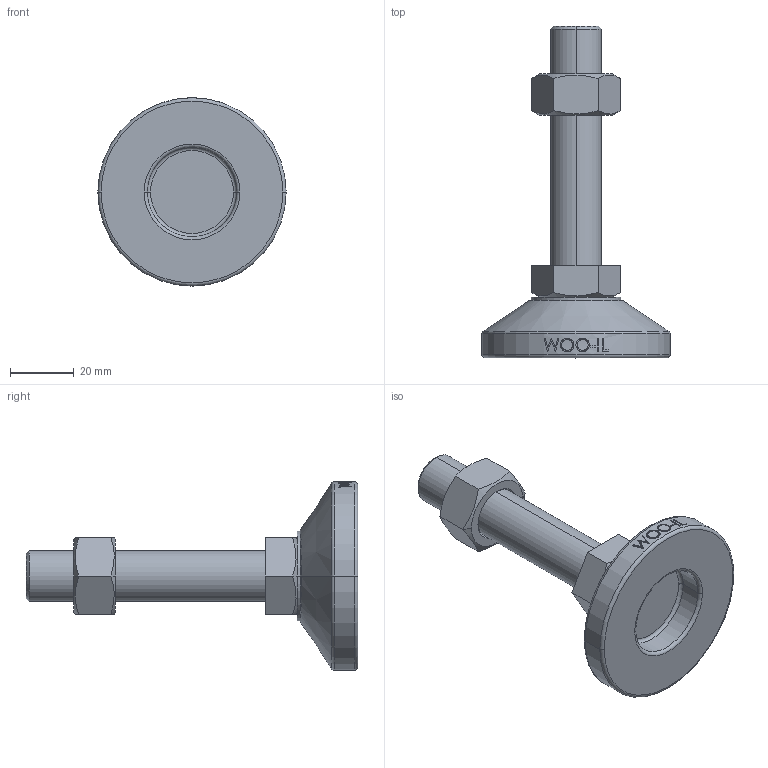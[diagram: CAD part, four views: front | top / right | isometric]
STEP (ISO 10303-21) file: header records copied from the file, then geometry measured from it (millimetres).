
FILE_DESCRIPTION (( 'STEP AP214' ), '1' );
FILE_NAME ('MF59-M16-75.step', '2021-02-03T08:18:39', ( '' ), ( '' ), 'SwSTEP 2.0', 'SolidWorks 2019', '' );
FILE_SCHEMA (( 'AUTOMOTIVE_DESIGN' ));
Length unit declared in the file: millimetre
Products named in the file (2): MF59-M16-75
Bounding box: 59 x 104 x 59 mm (x, y, z)
Volume: 56774 mm3; surface area: 15779.8 mm2
Topology: 3 solids, 3 shells, 106 faces, 243 edges, 154 vertices
Faces by surface type: plane 48, cylinder 18, bspline 16, cone 14, torus 10
Entity records: 4448 total; most frequent: CARTESIAN_POINT 2105, ORIENTED_EDGE 486, DIRECTION 439, EDGE_CURVE 243, AXIS2_PLACEMENT_3D 170, VERTEX_POINT 154, EDGE_LOOP 119, ADVANCED_FACE 106
